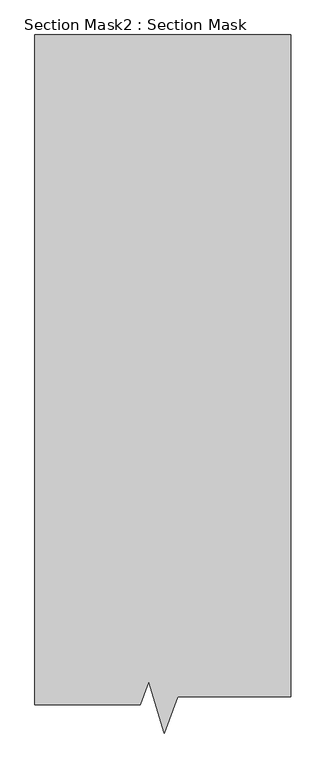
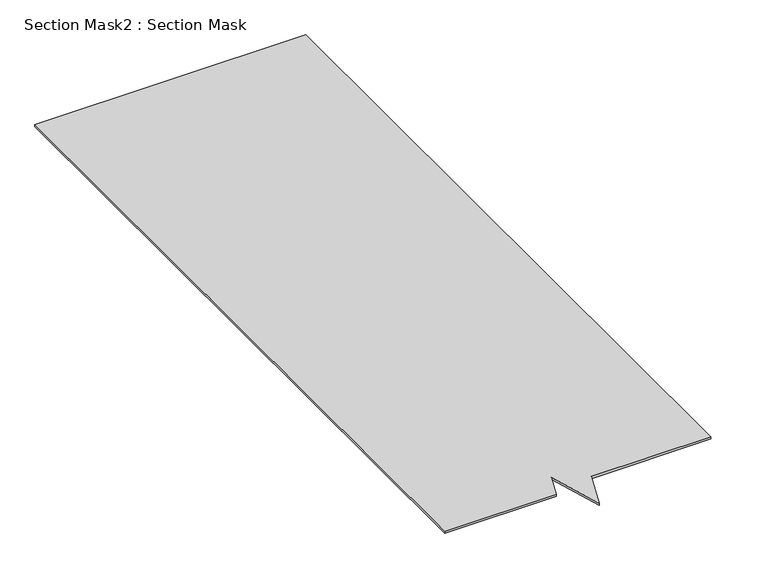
"""IFC4 building model written with IfcOpenShell, lengths in millimetres: proxy geometry, Section Mask2 : Section Mask."""

from ifc_helpers import new_model, si_unit, frame, origin, place, context, project, spatial, polyline, outline, extrude, source, transform, mapped, element, save


def section_mask2_section_mask_adec629a(model_context):
    return source(origin(), model_context, "Body", "SweptSolid", [
        extrude(outline(polyline([(8124.664325, 631.273934), (7836.242713, 631.273934), (7836.242713, 2465.4614947), (8536.8535216, 2465.4614947), (8536.8535216, 652.1224056), (8227.2982256, 652.1224056), (8190.6813689, 552.9595639), (8147.6812645, 693.6065681), (8124.664325, 631.273934)])), frame((0.0, 0.0, 45.0273345), z_axis=(0.0, 0.0, 1.0), x_axis=(1.0, 0.0, 0.0)), (0.0, 0.0, 1.0), 5.6926241),
    ])


if __name__ == "__main__":
    model = new_model("IFC4")
    model_context = context("Model", 3, world=origin())
    ifc_project = project(units=[si_unit("LENGTHUNIT", "METRE", prefix="MILLI")], contexts=[model_context])
    site = spatial("IfcSite", under=ifc_project)
    building = spatial("IfcBuilding", under=site)
    placement = place(None, origin())
    section_mask2_section_mask_shape = section_mask2_section_mask_adec629a(model_context)
    element("IfcBuildingElementProxy", 1, Name="Section Mask2 : Section Mask", ObjectType="Section Mask2 : Section Mask", at=placement, inside=building, context=model_context, shape_type="MappedRepresentation", body=[
        mapped(section_mask2_section_mask_shape, transform((0.0, 0.0, 0.0), x_axis=(1.0, 0.0, 0.0), y_axis=(0.0, 1.0, 0.0), z_axis=(0.0, 0.0, 1.0))),
    ])
    save(model, "model.ifc")
